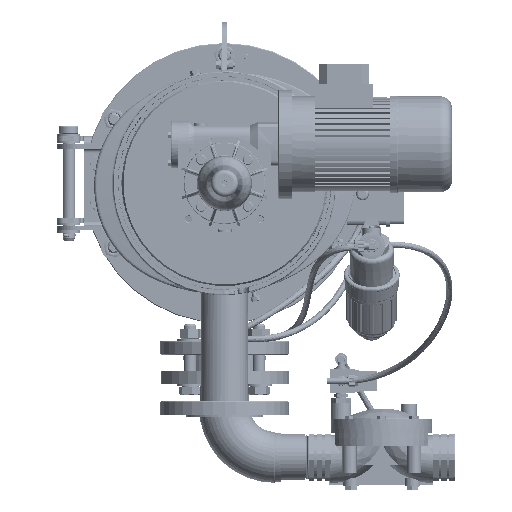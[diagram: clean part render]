
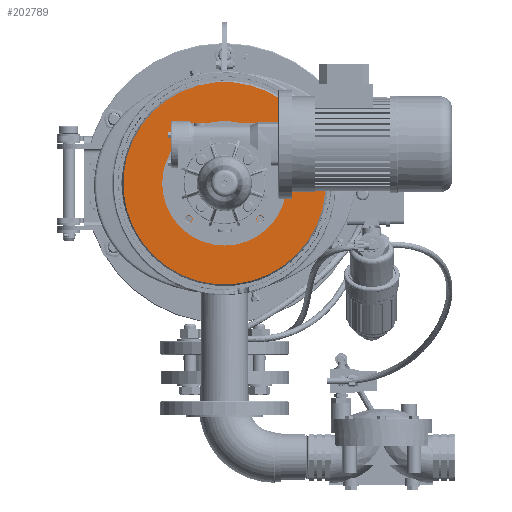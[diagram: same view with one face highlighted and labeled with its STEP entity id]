
A CAD part, left-side view. The second image highlights one B-rep face of the part: STEP entity #202789.
In plain terms, the highlighted planar face has unit normal (-1, 0, 0).
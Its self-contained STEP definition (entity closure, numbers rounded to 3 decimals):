
#1700 = DIRECTION ( 'NONE',  ( 1., 0., 0. ) ) ;
#3784 = CARTESIAN_POINT ( 'NONE',  ( -711.477, 74.361, -8.907 ) ) ;
#16827 = ORIENTED_EDGE ( 'NONE', *, *, #956660, .T. ) ;
#39303 = AXIS2_PLACEMENT_3D ( 'NONE', #623098, #700498, #148549 ) ;
#48440 = DIRECTION ( 'NONE',  ( 1., 0., 0. ) ) ;
#55887 = EDGE_CURVE ( 'NONE', #955957, #955957, #384739, .T. ) ;
#69382 = DIRECTION ( 'NONE',  ( 0., 0.707, -0.707 ) ) ;
#74827 = VERTEX_POINT ( 'NONE', #935884 ) ;
#81088 = VERTEX_POINT ( 'NONE', #3784 ) ;
#98797 = AXIS2_PLACEMENT_3D ( 'NONE', #529025, #389630, #549385 ) ;
#115507 = FACE_OUTER_BOUND ( 'NONE', #418840, .T. ) ;
#122396 = ORIENTED_EDGE ( 'NONE', *, *, #990081, .T. ) ;
#130722 = VERTEX_POINT ( 'NONE', #996624 ) ;
#134631 = CARTESIAN_POINT ( 'NONE',  ( -711.477, -43.195, 62.688 ) ) ;
#148549 = DIRECTION ( 'NONE',  ( 0., -0.707, 0.707 ) ) ;
#180616 = CIRCLE ( 'NONE', #1003928, 4.75 ) ;
#187155 = ORIENTED_EDGE ( 'NONE', *, *, #548475, .T. ) ;
#196903 = EDGE_LOOP ( 'NONE', ( #187155 ) ) ;
#202789 = ADVANCED_FACE ( 'NONE', ( #991773, #285788, #353045, #822236, #914645, #744838, #430271, #208332, #115507 ), #837410, .F. ) ;
#206958 = CARTESIAN_POINT ( 'NONE',  ( -711.477, -66.883, 132.338 ) ) ;
#208332 = FACE_BOUND ( 'NONE', #642741, .T. ) ;
#212859 = CARTESIAN_POINT ( 'NONE',  ( -711.477, 0.822, 64.632 ) ) ;
#220905 = DIRECTION ( 'NONE',  ( 1., 0., 0. ) ) ;
#221294 = EDGE_LOOP ( 'NONE', ( #16827 ) ) ;
#231142 = AXIS2_PLACEMENT_3D ( 'NONE', #951517, #502809, #265663 ) ;
#251145 = CIRCLE ( 'NONE', #383686, 4.75 ) ;
#258306 = EDGE_LOOP ( 'NONE', ( #642920 ) ) ;
#261668 = EDGE_CURVE ( 'NONE', #592307, #592307, #708258, .T. ) ;
#262190 = CIRCLE ( 'NONE', #361006, 26. ) ;
#265663 = DIRECTION ( 'NONE',  ( 0., -0.707, 0.707 ) ) ;
#273905 = EDGE_CURVE ( 'NONE', #74827, #74827, #251145, .T. ) ;
#285788 = FACE_BOUND ( 'NONE', #410124, .T. ) ;
#288362 = DIRECTION ( 'NONE',  ( 1., 0., 0. ) ) ;
#304172 = VERTEX_POINT ( 'NONE', #613634 ) ;
#312086 = CARTESIAN_POINT ( 'NONE',  ( -711.477, -66.883, 40.414 ) ) ;
#327175 = ORIENTED_EDGE ( 'NONE', *, *, #701200, .T. ) ;
#347930 = CIRCLE ( 'NONE', #924023, 3.75 ) ;
#353045 = FACE_BOUND ( 'NONE', #258306, .T. ) ;
#360372 = CARTESIAN_POINT ( 'NONE',  ( -711.477, -28.626, 117.061 ) ) ;
#361006 = AXIS2_PLACEMENT_3D ( 'NONE', #631422, #945556, #69382 ) ;
#373944 = DIRECTION ( 'NONE',  ( 0., 0.707, -0.707 ) ) ;
#382970 = ORIENTED_EDGE ( 'NONE', *, *, #439504, .T. ) ;
#383686 = AXIS2_PLACEMENT_3D ( 'NONE', #750909, #673668, #890410 ) ;
#384739 = CIRCLE ( 'NONE', #39303, 4.75 ) ;
#389630 = DIRECTION ( 'NONE',  ( 1., 0., 0. ) ) ;
#410124 = EDGE_LOOP ( 'NONE', ( #122396 ) ) ;
#415118 = CARTESIAN_POINT ( 'NONE',  ( -711.477, 28.399, 37.055 ) ) ;
#418840 = EDGE_LOOP ( 'NONE', ( #327175 ) ) ;
#430271 = FACE_BOUND ( 'NONE', #951183, .T. ) ;
#434758 = ORIENTED_EDGE ( 'NONE', *, *, #663161, .F. ) ;
#439504 = EDGE_CURVE ( 'NONE', #898158, #898158, #347930, .T. ) ;
#445473 = CARTESIAN_POINT ( 'NONE',  ( -711.477, -109.486, -8.907 ) ) ;
#455160 = VERTEX_POINT ( 'NONE', #212859 ) ;
#481092 = CARTESIAN_POINT ( 'NONE',  ( -711.477, -63.524, 128.979 ) ) ;
#502809 = DIRECTION ( 'NONE',  ( 1., 0., 0. ) ) ;
#506232 = VERTEX_POINT ( 'NONE', #206958 ) ;
#529025 = CARTESIAN_POINT ( 'NONE',  ( -711.477, 13.83, 74.605 ) ) ;
#535552 = DIRECTION ( 'NONE',  ( 0., -0.707, 0.707 ) ) ;
#548475 = EDGE_CURVE ( 'NONE', #304172, #304172, #1003960, .T. ) ;
#549385 = DIRECTION ( 'NONE',  ( 0., -0.707, 0.707 ) ) ;
#585031 = DIRECTION ( 'NONE',  ( 0., -0.707, 0.707 ) ) ;
#592307 = VERTEX_POINT ( 'NONE', #360372 ) ;
#613634 = CARTESIAN_POINT ( 'NONE',  ( -711.477, 11.178, 77.257 ) ) ;
#616155 = DIRECTION ( 'NONE',  ( -1., 0., 0. ) ) ;
#623098 = CARTESIAN_POINT ( 'NONE',  ( -711.477, -63.524, 37.055 ) ) ;
#631422 = CARTESIAN_POINT ( 'NONE',  ( -711.477, -17.562, 83.017 ) ) ;
#637637 = AXIS2_PLACEMENT_3D ( 'NONE', #481092, #1700, #945101 ) ;
#642741 = EDGE_LOOP ( 'NONE', ( #434758 ) ) ;
#642920 = ORIENTED_EDGE ( 'NONE', *, *, #261668, .T. ) ;
#663161 = EDGE_CURVE ( 'NONE', #455160, #455160, #262190, .T. ) ;
#673668 = DIRECTION ( 'NONE',  ( 1., 0., 0. ) ) ;
#700498 = DIRECTION ( 'NONE',  ( 1., 0., 0. ) ) ;
#701200 = EDGE_CURVE ( 'NONE', #81088, #81088, #993755, .T. ) ;
#708258 = CIRCLE ( 'NONE', #231142, 3.75 ) ;
#744838 = FACE_BOUND ( 'NONE', #971163, .T. ) ;
#750909 = CARTESIAN_POINT ( 'NONE',  ( -711.477, 28.399, 128.979 ) ) ;
#756119 = AXIS2_PLACEMENT_3D ( 'NONE', #445473, #48440, #585031 ) ;
#768873 = EDGE_LOOP ( 'NONE', ( #839211 ) ) ;
#780000 = AXIS2_PLACEMENT_3D ( 'NONE', #848150, #616155, #373944 ) ;
#822236 = FACE_BOUND ( 'NONE', #196903, .T. ) ;
#837410 = PLANE ( 'NONE',  #756119 ) ;
#839211 = ORIENTED_EDGE ( 'NONE', *, *, #273905, .T. ) ;
#844510 = ORIENTED_EDGE ( 'NONE', *, *, #55887, .T. ) ;
#848150 = CARTESIAN_POINT ( 'NONE',  ( -711.477, -17.562, 83.017 ) ) ;
#890410 = DIRECTION ( 'NONE',  ( 0., -0.707, 0.707 ) ) ;
#898158 = VERTEX_POINT ( 'NONE', #134631 ) ;
#914645 = FACE_BOUND ( 'NONE', #221294, .T. ) ;
#922290 = DIRECTION ( 'NONE',  ( 0., -0.707, 0.707 ) ) ;
#924023 = AXIS2_PLACEMENT_3D ( 'NONE', #994316, #288362, #922290 ) ;
#935884 = CARTESIAN_POINT ( 'NONE',  ( -711.477, 25.041, 132.338 ) ) ;
#945101 = DIRECTION ( 'NONE',  ( 0., -0.707, 0.707 ) ) ;
#945556 = DIRECTION ( 'NONE',  ( -1., 0., 0. ) ) ;
#950789 = CIRCLE ( 'NONE', #637637, 4.75 ) ;
#951183 = EDGE_LOOP ( 'NONE', ( #382970 ) ) ;
#951517 = CARTESIAN_POINT ( 'NONE',  ( -711.477, -25.974, 114.41 ) ) ;
#955957 = VERTEX_POINT ( 'NONE', #312086 ) ;
#956660 = EDGE_CURVE ( 'NONE', #130722, #130722, #180616, .T. ) ;
#971163 = EDGE_LOOP ( 'NONE', ( #844510 ) ) ;
#990081 = EDGE_CURVE ( 'NONE', #506232, #506232, #950789, .T. ) ;
#991773 = FACE_BOUND ( 'NONE', #768873, .T. ) ;
#993755 = CIRCLE ( 'NONE', #780000, 130. ) ;
#994316 = CARTESIAN_POINT ( 'NONE',  ( -711.477, -40.543, 60.036 ) ) ;
#996624 = CARTESIAN_POINT ( 'NONE',  ( -711.477, 25.041, 40.414 ) ) ;
#1003928 = AXIS2_PLACEMENT_3D ( 'NONE', #415118, #220905, #535552 ) ;
#1003960 = CIRCLE ( 'NONE', #98797, 3.75 ) ;
